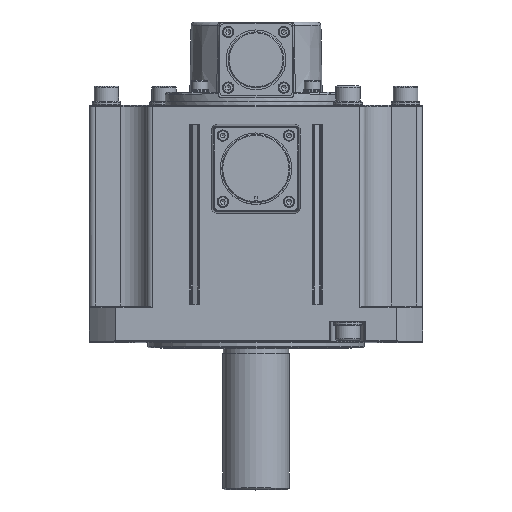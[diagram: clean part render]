
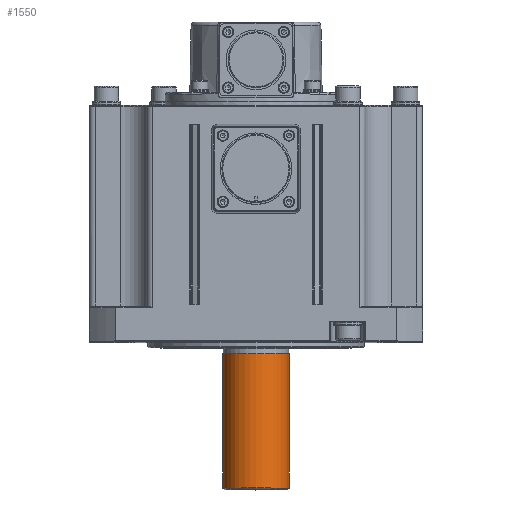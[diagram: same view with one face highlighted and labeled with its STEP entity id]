
A CAD part, top view. The second image highlights one B-rep face of the part: STEP entity #1550.
In plain terms, the highlighted cylindrical face has radius 17.5 mm (diameter 35 mm), a full revolution.
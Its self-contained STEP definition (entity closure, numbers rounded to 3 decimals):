
#1496=CARTESIAN_POINT('',(-37.405,-90.109,112.42));
#1497=VERTEX_POINT('',#1496);
#1498=CARTESIAN_POINT('',(-19.905,-90.109,112.42));
#1499=DIRECTION('',(0.0,-1.0,0.0));
#1500=DIRECTION('',(1.0,0.0,0.0));
#1501=AXIS2_PLACEMENT_3D('',#1498,#1499,#1500);
#1502=CIRCLE('',#1501,17.5);
#1503=EDGE_CURVE('',#1497,#1497,#1502,.T.);
#1527=CARTESIAN_POINT('',(-37.405,-161.109,112.42));
#1528=VERTEX_POINT('',#1527);
#1529=CARTESIAN_POINT('',(-19.905,-161.109,112.42));
#1530=DIRECTION('',(0.0,-1.0,0.0));
#1531=DIRECTION('',(1.0,0.0,0.0));
#1532=AXIS2_PLACEMENT_3D('',#1529,#1530,#1531);
#1533=CIRCLE('',#1532,17.5);
#1534=EDGE_CURVE('',#1528,#1528,#1533,.T.);
#1539=CARTESIAN_POINT('',(-19.905,-87.109,112.42));
#1540=DIRECTION('',(0.0,-1.0,0.0));
#1541=DIRECTION('',(1.0,0.0,0.0));
#1542=AXIS2_PLACEMENT_3D('',#1539,#1540,#1541);
#1543=CYLINDRICAL_SURFACE('',#1542,17.5);
#1544=ORIENTED_EDGE('',*,*,#1503,.T.);
#1545=EDGE_LOOP('',(#1544));
#1546=FACE_OUTER_BOUND('',#1545,.T.);
#1547=ORIENTED_EDGE('',*,*,#1534,.F.);
#1548=EDGE_LOOP('',(#1547));
#1549=FACE_BOUND('',#1548,.T.);
#1550=ADVANCED_FACE('',(#1546,#1549),#1543,.T.);
